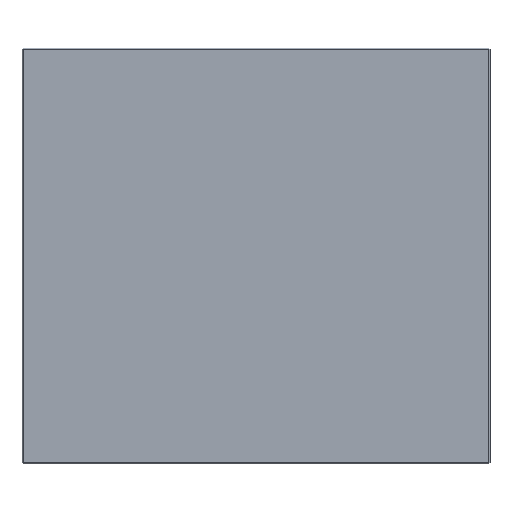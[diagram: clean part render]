
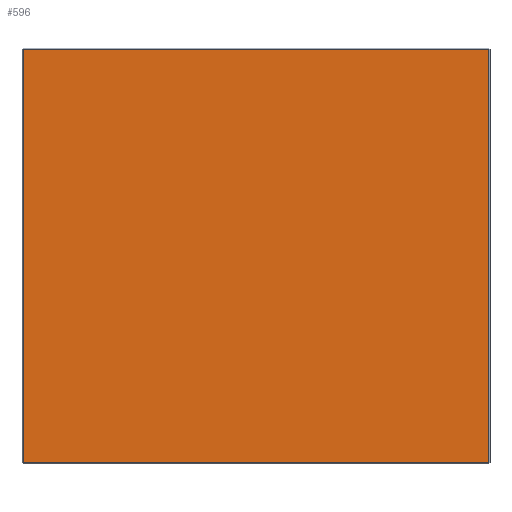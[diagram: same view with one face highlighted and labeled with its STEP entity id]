
A CAD part, front view. The second image highlights one B-rep face of the part: STEP entity #596.
In plain terms, the highlighted planar face has unit normal (0, -1, 0).
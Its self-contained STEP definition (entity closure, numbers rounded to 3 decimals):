
#25 = DIRECTION ( 'NONE',  ( 0., 1., 0. ) ) ;
#36 = VECTOR ( 'NONE', #286, 1000. ) ;
#45 = VERTEX_POINT ( 'NONE', #639 ) ;
#76 = FACE_OUTER_BOUND ( 'NONE', #590, .T. ) ;
#80 = ORIENTED_EDGE ( 'NONE', *, *, #322, .T. ) ;
#105 = LINE ( 'NONE', #148, #589 ) ;
#112 = VECTOR ( 'NONE', #212, 1000. ) ;
#122 = ORIENTED_EDGE ( 'NONE', *, *, #511, .T. ) ;
#148 = CARTESIAN_POINT ( 'NONE',  ( 0., 0., 197. ) ) ;
#151 = DIRECTION ( 'NONE',  ( -1., 0., 0. ) ) ;
#172 = DIRECTION ( 'NONE',  ( 0., 0., 1. ) ) ;
#212 = DIRECTION ( 'NONE',  ( 1., 0., 0. ) ) ;
#230 = AXIS2_PLACEMENT_3D ( 'NONE', #277, #25, #172 ) ;
#252 = CARTESIAN_POINT ( 'NONE',  ( 0., 0., -197. ) ) ;
#253 = EDGE_CURVE ( 'NONE', #406, #45, #436, .T. ) ;
#264 = PLANE ( 'NONE',  #230 ) ;
#270 = DIRECTION ( 'NONE',  ( 0., 0., -1. ) ) ;
#272 = LINE ( 'NONE', #252, #112 ) ;
#277 = CARTESIAN_POINT ( 'NONE',  ( 0., 0., 0. ) ) ;
#286 = DIRECTION ( 'NONE',  ( 0., 0., 1. ) ) ;
#322 = EDGE_CURVE ( 'NONE', #438, #463, #371, .T. ) ;
#334 = CARTESIAN_POINT ( 'NONE',  ( 222., 0., -197. ) ) ;
#367 = EDGE_CURVE ( 'NONE', #45, #438, #105, .T. ) ;
#371 = LINE ( 'NONE', #549, #517 ) ;
#387 = CARTESIAN_POINT ( 'NONE',  ( 222., 0., 0. ) ) ;
#406 = VERTEX_POINT ( 'NONE', #334 ) ;
#436 = LINE ( 'NONE', #387, #36 ) ;
#438 = VERTEX_POINT ( 'NONE', #626 ) ;
#463 = VERTEX_POINT ( 'NONE', #570 ) ;
#465 = ORIENTED_EDGE ( 'NONE', *, *, #253, .T. ) ;
#511 = EDGE_CURVE ( 'NONE', #463, #406, #272, .T. ) ;
#517 = VECTOR ( 'NONE', #270, 1000. ) ;
#549 = CARTESIAN_POINT ( 'NONE',  ( -222., 0., 0. ) ) ;
#556 = ORIENTED_EDGE ( 'NONE', *, *, #367, .T. ) ;
#570 = CARTESIAN_POINT ( 'NONE',  ( -222., 0., -197. ) ) ;
#589 = VECTOR ( 'NONE', #151, 1000. ) ;
#590 = EDGE_LOOP ( 'NONE', ( #465, #556, #80, #122 ) ) ;
#596 = ADVANCED_FACE ( 'NONE', ( #76 ), #264, .F. ) ;
#626 = CARTESIAN_POINT ( 'NONE',  ( -222., 0., 197. ) ) ;
#639 = CARTESIAN_POINT ( 'NONE',  ( 222., 0., 197. ) ) ;
